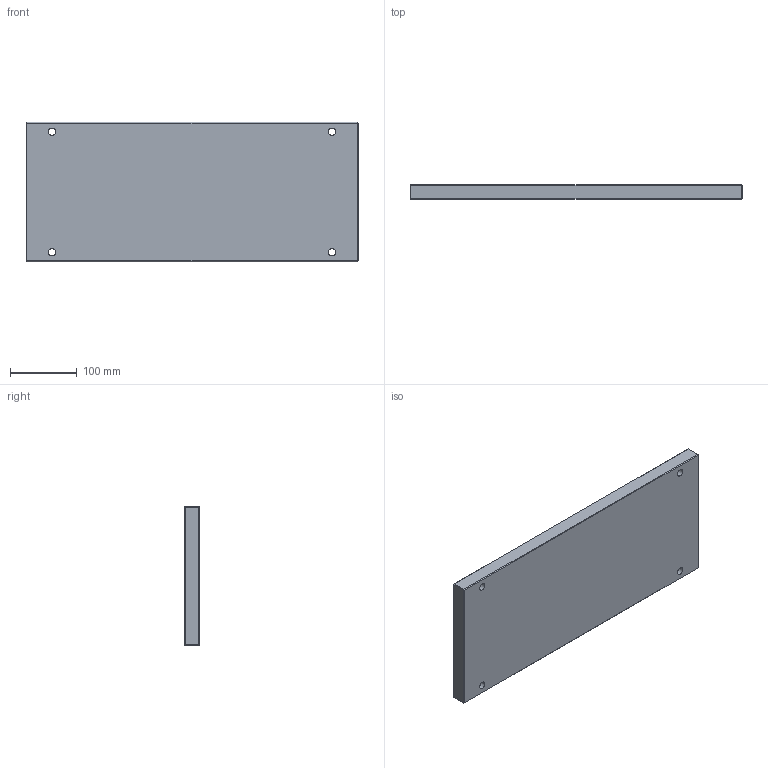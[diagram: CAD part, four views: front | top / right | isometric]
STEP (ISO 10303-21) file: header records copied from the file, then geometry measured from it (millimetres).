
FILE_DESCRIPTION(/* description */ ('STEP AP214'),/* implementation_level */ '2;1');
FILE_NAME(/* name */ 'KM0702964960221730',/* time_stamp */ '2026-07-09T14:25:16+02:00',/* author */ ('License CC BY-ND 4.0'),/* organization */ ('CADENAS'),/* preprocessor_version */ 'ST-DEVELOPER v20',/* originating_system */ 'PARTsolutions',/* authorisation */ ' ');
FILE_SCHEMA (('AUTOMOTIVE_DESIGN {1 0 10303 214 3 1 1}'));
Length unit declared in the file: millimetre
Products named in the file (1): KM0702964960221730
Bounding box: 496 x 22 x 208 mm (x, y, z)
Volume: 2252567.9 mm3; surface area: 239213.2 mm2
Topology: 1 solids, 1 shells, 42 faces, 104 edges, 68 vertices
Faces by surface type: plane 22, cylinder 12, cone 8
Full cylindrical faces by diameter (mm): 3.242 x4, 11 x4, 18 x4
Entity records: 1134 total; most frequent: DIRECTION 190, CARTESIAN_POINT 183, ORIENTED_EDGE 152, FACE_BOUND 78, EDGE_CURVE 76, EDGE_LOOP 74, AXIS2_PLACEMENT_3D 71, VERTEX_POINT 64
